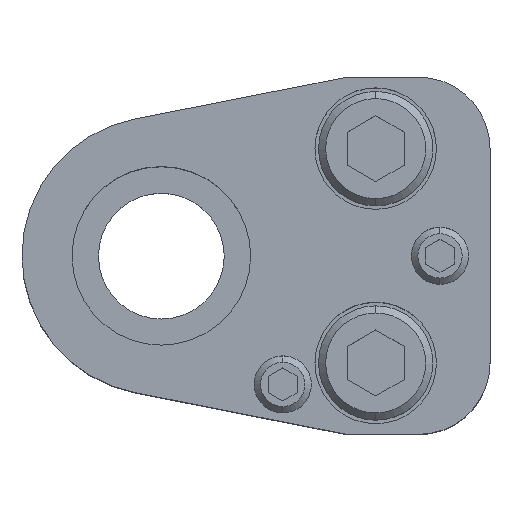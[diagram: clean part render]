
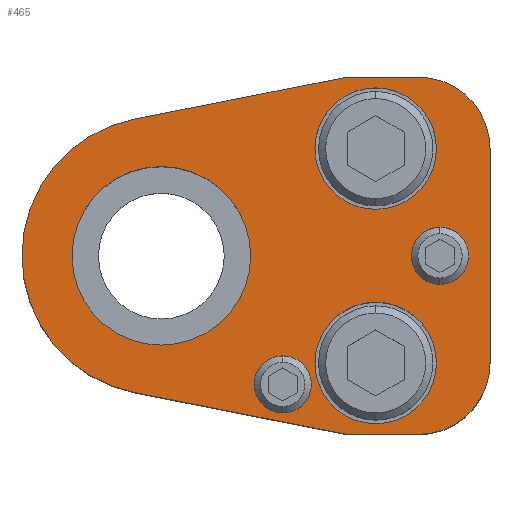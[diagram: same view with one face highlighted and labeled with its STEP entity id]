
A CAD part, top view. The second image highlights one B-rep face of the part: STEP entity #465.
In plain terms, the highlighted planar face has unit normal (0, 0, 1).
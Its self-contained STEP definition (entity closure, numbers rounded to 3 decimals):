
#219=FACE_BOUND('',#833,.T.);
#220=FACE_BOUND('',#834,.T.);
#221=FACE_BOUND('',#835,.T.);
#222=FACE_BOUND('',#836,.T.);
#223=FACE_BOUND('',#837,.T.);
#224=FACE_BOUND('',#838,.T.);
#269=CIRCLE('',#2664,10.);
#271=CIRCLE('',#2668,10.);
#281=CIRCLE('',#2684,8.5);
#283=CIRCLE('',#2687,8.5);
#285=CIRCLE('',#2691,8.5);
#287=CIRCLE('',#2694,8.5);
#290=CIRCLE('',#2699,19.5);
#292=CIRCLE('',#2705,12.5);
#294=CIRCLE('',#2708,12.5);
#314=CIRCLE('',#2743,4.);
#315=CIRCLE('',#2744,4.);
#316=CIRCLE('',#2745,4.);
#317=CIRCLE('',#2746,4.);
#465=ADVANCED_FACE('',(#219,#220,#221,#222,#223,#224),#584,.T.);
#584=PLANE('',#2747);
#833=EDGE_LOOP('',(#1239,#1240,#1241,#1242,#1243,#1244,#1245,#1246));
#834=EDGE_LOOP('',(#1247,#1248));
#835=EDGE_LOOP('',(#1249,#1250));
#836=EDGE_LOOP('',(#1251,#1252));
#837=EDGE_LOOP('',(#1253,#1254));
#838=EDGE_LOOP('',(#1255,#1256));
#1239=ORIENTED_EDGE('',*,*,#1976,.T.);
#1240=ORIENTED_EDGE('',*,*,#1985,.T.);
#1241=ORIENTED_EDGE('',*,*,#1935,.T.);
#1242=ORIENTED_EDGE('',*,*,#1939,.T.);
#1243=ORIENTED_EDGE('',*,*,#1942,.T.);
#1244=ORIENTED_EDGE('',*,*,#1945,.T.);
#1245=ORIENTED_EDGE('',*,*,#1948,.T.);
#1246=ORIENTED_EDGE('',*,*,#1980,.T.);
#1247=ORIENTED_EDGE('',*,*,#2026,.F.);
#1248=ORIENTED_EDGE('',*,*,#2027,.F.);
#1249=ORIENTED_EDGE('',*,*,#2028,.F.);
#1250=ORIENTED_EDGE('',*,*,#2029,.F.);
#1251=ORIENTED_EDGE('',*,*,#1972,.F.);
#1252=ORIENTED_EDGE('',*,*,#1968,.F.);
#1253=ORIENTED_EDGE('',*,*,#1966,.F.);
#1254=ORIENTED_EDGE('',*,*,#1962,.F.);
#1255=ORIENTED_EDGE('',*,*,#1996,.T.);
#1256=ORIENTED_EDGE('',*,*,#1993,.T.);
#1686=VERTEX_POINT('',#3857);
#1687=VERTEX_POINT('',#3859);
#1690=VERTEX_POINT('',#3866);
#1692=VERTEX_POINT('',#3872);
#1694=VERTEX_POINT('',#3878);
#1696=VERTEX_POINT('',#3884);
#1705=VERTEX_POINT('',#3913);
#1706=VERTEX_POINT('',#3914);
#1709=VERTEX_POINT('',#3926);
#1710=VERTEX_POINT('',#3927);
#1715=VERTEX_POINT('',#3942);
#1716=VERTEX_POINT('',#3944);
#1726=VERTEX_POINT('',#3977);
#1727=VERTEX_POINT('',#3979);
#1746=VERTEX_POINT('',#4047);
#1747=VERTEX_POINT('',#4048);
#1748=VERTEX_POINT('',#4051);
#1749=VERTEX_POINT('',#4052);
#1935=EDGE_CURVE('',#1687,#1686,#2269,.T.);
#1939=EDGE_CURVE('',#1686,#1690,#269,.T.);
#1942=EDGE_CURVE('',#1690,#1692,#2274,.T.);
#1945=EDGE_CURVE('',#1692,#1694,#271,.T.);
#1948=EDGE_CURVE('',#1694,#1696,#2278,.T.);
#1962=EDGE_CURVE('',#1705,#1706,#281,.T.);
#1966=EDGE_CURVE('',#1706,#1705,#283,.T.);
#1968=EDGE_CURVE('',#1709,#1710,#285,.T.);
#1972=EDGE_CURVE('',#1710,#1709,#287,.T.);
#1976=EDGE_CURVE('',#1716,#1715,#290,.T.);
#1980=EDGE_CURVE('',#1696,#1716,#2292,.T.);
#1985=EDGE_CURVE('',#1715,#1687,#2297,.T.);
#1993=EDGE_CURVE('',#1727,#1726,#292,.T.);
#1996=EDGE_CURVE('',#1726,#1727,#294,.T.);
#2026=EDGE_CURVE('',#1746,#1747,#314,.T.);
#2027=EDGE_CURVE('',#1747,#1746,#315,.T.);
#2028=EDGE_CURVE('',#1748,#1749,#316,.T.);
#2029=EDGE_CURVE('',#1749,#1748,#317,.T.);
#2269=LINE('',#3858,#2467);
#2274=LINE('',#3873,#2472);
#2278=LINE('',#3885,#2476);
#2292=LINE('',#3951,#2490);
#2297=LINE('',#3959,#2495);
#2467=VECTOR('',#3061,1.);
#2472=VECTOR('',#3074,1.);
#2476=VECTOR('',#3086,1.);
#2490=VECTOR('',#3160,1.);
#2495=VECTOR('',#3167,1.);
#2664=AXIS2_PLACEMENT_3D('',#3867,#3067,#3068);
#2668=AXIS2_PLACEMENT_3D('',#3879,#3079,#3080);
#2684=AXIS2_PLACEMENT_3D('',#3912,#3118,#3119);
#2687=AXIS2_PLACEMENT_3D('',#3921,#3126,#3127);
#2691=AXIS2_PLACEMENT_3D('',#3925,#3134,#3135);
#2694=AXIS2_PLACEMENT_3D('',#3934,#3142,#3143);
#2699=AXIS2_PLACEMENT_3D('',#3943,#3153,#3154);
#2705=AXIS2_PLACEMENT_3D('',#3978,#3179,#3180);
#2708=AXIS2_PLACEMENT_3D('',#3983,#3186,#3187);
#2743=AXIS2_PLACEMENT_3D('',#4046,#3266,#3267);
#2744=AXIS2_PLACEMENT_3D('',#4049,#3268,#3269);
#2745=AXIS2_PLACEMENT_3D('',#4050,#3270,#3271);
#2746=AXIS2_PLACEMENT_3D('',#4053,#3272,#3273);
#2747=AXIS2_PLACEMENT_3D('',#4054,#3274,#3275);
#3061=DIRECTION('',(1.,0.,0.));
#3067=DIRECTION('',(0.,0.,1.));
#3068=DIRECTION('',(-0.707,0.707,0.));
#3074=DIRECTION('',(0.,1.,0.));
#3079=DIRECTION('',(0.,0.,1.));
#3080=DIRECTION('',(-0.707,-0.707,0.));
#3086=DIRECTION('',(-1.,0.,0.));
#3118=DIRECTION('',(0.,0.,1.));
#3119=DIRECTION('',(-1.,0.,0.));
#3126=DIRECTION('',(0.,0.,1.));
#3127=DIRECTION('',(1.,0.,0.));
#3134=DIRECTION('',(0.,0.,1.));
#3135=DIRECTION('',(-1.,0.,0.));
#3142=DIRECTION('',(0.,0.,1.));
#3143=DIRECTION('',(1.,0.,0.));
#3153=DIRECTION('',(0.,0.,1.));
#3154=DIRECTION('',(0.,1.,0.));
#3160=DIRECTION('',(-0.981,-0.193,0.));
#3167=DIRECTION('',(0.981,-0.193,0.));
#3179=DIRECTION('',(0.,0.,-1.));
#3180=DIRECTION('',(1.,0.,0.));
#3186=DIRECTION('',(0.,0.,-1.));
#3187=DIRECTION('',(-1.,0.,0.));
#3266=DIRECTION('',(0.,0.,1.));
#3267=DIRECTION('',(1.,0.,0.));
#3268=DIRECTION('',(0.,0.,1.));
#3269=DIRECTION('',(-1.,0.,0.));
#3270=DIRECTION('',(0.,0.,1.));
#3271=DIRECTION('',(1.,0.,0.));
#3272=DIRECTION('',(0.,0.,1.));
#3273=DIRECTION('',(-1.,0.,0.));
#3274=DIRECTION('',(0.,0.,1.));
#3275=DIRECTION('',(0.981,0.193,0.));
#3857=CARTESIAN_POINT('',(36.,-25.,35.));
#3858=CARTESIAN_POINT('',(26.,-25.,35.));
#3859=CARTESIAN_POINT('',(26.,-25.,35.));
#3866=CARTESIAN_POINT('',(46.,-15.,35.));
#3867=CARTESIAN_POINT('',(36.,-15.,35.));
#3872=CARTESIAN_POINT('',(46.,15.,35.));
#3873=CARTESIAN_POINT('',(46.,-15.,35.));
#3878=CARTESIAN_POINT('',(36.,25.,35.));
#3879=CARTESIAN_POINT('',(36.,15.,35.));
#3884=CARTESIAN_POINT('',(26.,25.,35.));
#3885=CARTESIAN_POINT('',(26.,25.,35.));
#3912=CARTESIAN_POINT('',(30.,15.,35.));
#3913=CARTESIAN_POINT('',(30.,6.5,35.));
#3914=CARTESIAN_POINT('',(30.,23.5,35.));
#3921=CARTESIAN_POINT('',(30.,15.,35.));
#3925=CARTESIAN_POINT('',(30.,-15.,35.));
#3926=CARTESIAN_POINT('',(30.,-23.5,35.));
#3927=CARTESIAN_POINT('',(30.,-6.5,35.));
#3934=CARTESIAN_POINT('',(30.,-15.,35.));
#3942=CARTESIAN_POINT('',(-3.771,-19.132,35.));
#3943=CARTESIAN_POINT('',(0.,0.,35.));
#3944=CARTESIAN_POINT('',(-3.771,19.132,35.));
#3951=CARTESIAN_POINT('',(26.,25.,35.));
#3959=CARTESIAN_POINT('',(26.,-25.,35.));
#3977=CARTESIAN_POINT('',(0.,12.5,35.));
#3978=CARTESIAN_POINT('',(0.,0.,35.));
#3979=CARTESIAN_POINT('',(0.,-12.5,35.));
#3983=CARTESIAN_POINT('',(0.,0.,35.));
#4046=CARTESIAN_POINT('',(39.,0.,35.));
#4047=CARTESIAN_POINT('',(39.,4.,35.));
#4048=CARTESIAN_POINT('',(39.,-4.,35.));
#4049=CARTESIAN_POINT('',(39.,0.,35.));
#4050=CARTESIAN_POINT('',(17.,-18.,35.));
#4051=CARTESIAN_POINT('',(17.,-14.,35.));
#4052=CARTESIAN_POINT('',(17.,-22.,35.));
#4053=CARTESIAN_POINT('',(17.,-18.,35.));
#4054=CARTESIAN_POINT('',(-3.771,19.132,35.));
